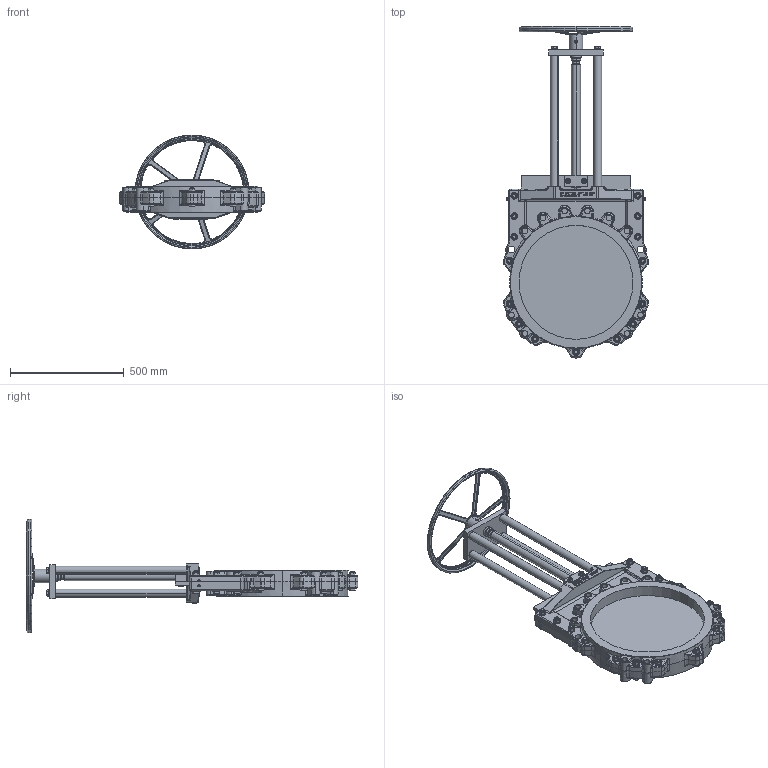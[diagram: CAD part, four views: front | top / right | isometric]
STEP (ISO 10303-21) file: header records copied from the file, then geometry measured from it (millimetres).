
FILE_DESCRIPTION (( 'STEP AP214' ), '1' );
FILE_NAME ('VSA DN 0500.STEP', '2015-09-23T10:59:14', ( 'admin' ), ( 'Hewlett-Packard Company' ), 'SwSTEP 2.0', 'SolidWorks 2013', '' );
FILE_SCHEMA (( 'AUTOMOTIVE_DESIGN' ));
Length unit declared in the file: millimetre
Products named in the file (1): VSA DN 0500
Bounding box: 638.03 x 1455.99 x 500 mm (x, y, z)
Volume: 25866219.9 mm3; surface area: 2405307.9 mm2
Topology: 82 solids, 92 shells, 3191 faces, 7387 edges, 4299 vertices
Faces by surface type: plane 960, cylinder 772, bspline 596, cone 569, torus 292, sphere 2
Entity records: 158253 total; most frequent: CARTESIAN_POINT 54960, ORIENTED_EDGE 14438, DIRECTION 13406, EDGE_CURVE 7219, AXIS2_PLACEMENT_3D 5548, VERTEX_POINT 4299, EDGE_LOOP 3458, UNCERTAINTY_MEASURE_WITH_UNIT 3271
